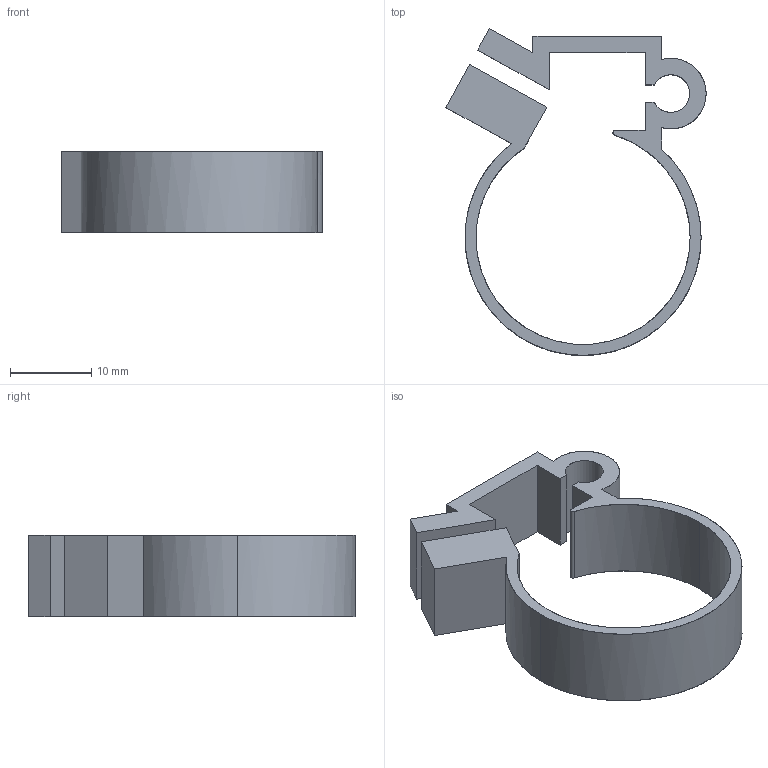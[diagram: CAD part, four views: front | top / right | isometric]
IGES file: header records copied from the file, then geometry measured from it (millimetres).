
Start section: Comment
Global section: file name: xf-26.igs; native system:  By UGS Corp.; preprocessor: XPlus GENERIC/IGES 3.0; author: Author; organization: Title; date: 20080926.125314; units: millimetre
Bounding box: 31.98 x 40.14 x 10 mm (x, y, z)
Surface area: 3291.4 mm2 (no closed solid volume)
Topology: 0 solids, 0 shells, 30 faces, 172 edges, 172 vertices
Faces by surface type: bspline 30
